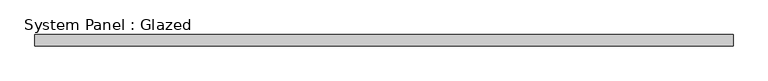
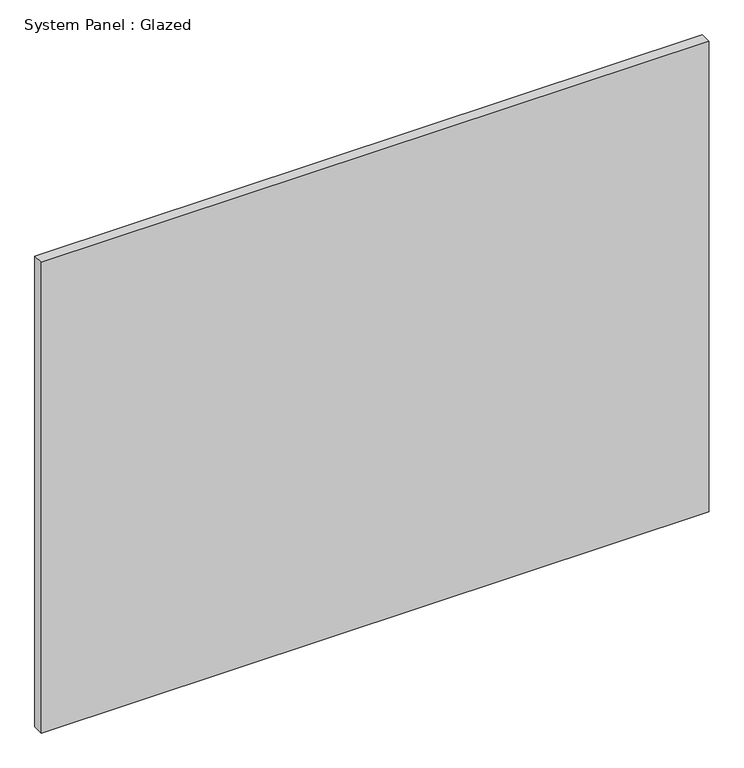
"""IFC4 building model written with IfcOpenShell, lengths in millimetres: plate geometry, System Panel : Glazed."""

from ifc_helpers import new_model, si_unit, origin, origin_with_axes, place, context, project, spatial, polyline, outline, extrude, source, transform, mapped, element, save


def system_panel_glazed_78962dc2(model_context):
    return source(origin(), model_context, "Body", "SweptSolid", [
        extrude(outline(polyline([(755.0, -12.5), (-755.0, -12.5), (-755.0, 12.5), (755.0, 12.5), (755.0, -12.5)])), origin_with_axes(), (0.0, 0.0, 1.0), 1125.0),
    ])


if __name__ == "__main__":
    model = new_model("IFC4")
    model_context = context("Model", 3, world=origin())
    ifc_project = project(units=[si_unit("LENGTHUNIT", "METRE", prefix="MILLI")], contexts=[model_context])
    site = spatial("IfcSite", under=ifc_project)
    building = spatial("IfcBuilding", under=site)
    placement = place(None, origin())
    system_panel_glazed_shape = system_panel_glazed_78962dc2(model_context)
    element("IfcPlate", 1, ObjectType="System Panel : Glazed", at=placement, inside=building, context=model_context, shape_type="MappedRepresentation", body=[
        mapped(system_panel_glazed_shape, transform((0.0, 0.0, 0.0), x_axis=(1.0, 0.0, 0.0), y_axis=(0.0, 1.0, 0.0), z_axis=(0.0, 0.0, 1.0))),
    ])
    save(model, "model.ifc")
